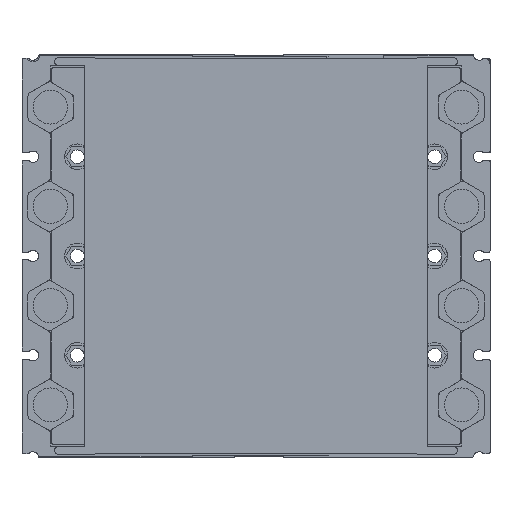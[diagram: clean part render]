
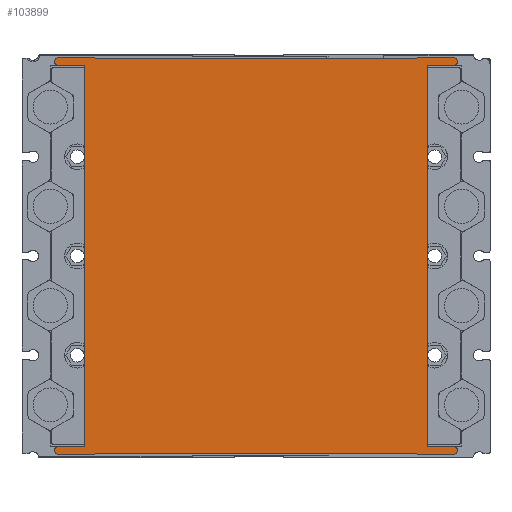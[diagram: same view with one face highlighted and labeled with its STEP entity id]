
A CAD part, front view. The second image highlights one B-rep face of the part: STEP entity #103899.
In plain terms, the highlighted planar face has unit normal (0, -1, 0).
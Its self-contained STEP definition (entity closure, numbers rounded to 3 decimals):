
#13864=DIRECTION('',(1.,0.,0.));
#13865=VECTOR('',#13864,112.764);
#13866=CARTESIAN_POINT('',(26.118,0.,-140.5));
#13867=LINE('',#13866,#13865);
#13884=DIRECTION('',(-1.,0.,0.));
#13885=VECTOR('',#13884,9.2);
#13886=CARTESIAN_POINT('',(22.2,0.,-138.));
#13887=LINE('',#13886,#13885);
#13900=DIRECTION('',(0.,0.,-1.));
#13901=VECTOR('',#13900,134.);
#13902=CARTESIAN_POINT('',(22.2,0.,-4.));
#13903=LINE('',#13902,#13901);
#38271=DIRECTION('',(0.,0.,1.));
#38272=VECTOR('',#38271,134.);
#38273=CARTESIAN_POINT('',(142.8,0.,-138.));
#38274=LINE('',#38273,#38272);
#38635=DIRECTION('',(1.,0.,0.));
#38636=VECTOR('',#38635,112.764);
#38637=CARTESIAN_POINT('',(26.118,0.,-1.5));
#38638=LINE('',#38637,#38636);
#38639=CARTESIAN_POINT('',(140.,0.,-2.5));
#38640=DIRECTION('',(0.,1.,0.));
#38641=DIRECTION('',(-0.745,0.,0.667));
#38642=AXIS2_PLACEMENT_3D('',#38639,#38640,#38641);
#38644=DIRECTION('',(1.,0.,0.));
#38645=VECTOR('',#38644,12.);
#38646=CARTESIAN_POINT('',(140.,0.,-1.));
#38647=LINE('',#38646,#38645);
#38648=CARTESIAN_POINT('',(152.,0.,-2.5));
#38649=DIRECTION('',(0.,1.,0.));
#38650=DIRECTION('',(0.,0.,1.));
#38651=AXIS2_PLACEMENT_3D('',#38648,#38649,#38650);
#38653=DIRECTION('',(-1.,0.,0.));
#38654=VECTOR('',#38653,9.2);
#38655=CARTESIAN_POINT('',(152.,0.,-4.));
#38656=LINE('',#38655,#38654);
#38657=CARTESIAN_POINT('',(152.,0.,-139.5));
#38658=DIRECTION('',(0.,1.,0.));
#38659=DIRECTION('',(0.,0.,1.));
#38660=AXIS2_PLACEMENT_3D('',#38657,#38658,#38659);
#38662=DIRECTION('',(-1.,0.,0.));
#38663=VECTOR('',#38662,12.);
#38664=CARTESIAN_POINT('',(152.,0.,-141.));
#38665=LINE('',#38664,#38663);
#38666=CARTESIAN_POINT('',(140.,0.,-139.5));
#38667=DIRECTION('',(0.,1.,0.));
#38668=DIRECTION('',(0.,0.,-1.));
#38669=AXIS2_PLACEMENT_3D('',#38666,#38667,#38668);
#38671=CARTESIAN_POINT('',(25.,0.,-139.5));
#38672=DIRECTION('',(0.,1.,0.));
#38673=DIRECTION('',(0.745,0.,-0.667));
#38674=AXIS2_PLACEMENT_3D('',#38671,#38672,#38673);
#38676=DIRECTION('',(-1.,0.,0.));
#38677=VECTOR('',#38676,12.);
#38678=CARTESIAN_POINT('',(25.,0.,-141.));
#38679=LINE('',#38678,#38677);
#38680=CARTESIAN_POINT('',(13.,0.,-139.5));
#38681=DIRECTION('',(0.,1.,0.));
#38682=DIRECTION('',(0.,0.,-1.));
#38683=AXIS2_PLACEMENT_3D('',#38680,#38681,#38682);
#38685=DIRECTION('',(-1.,0.,0.));
#38686=VECTOR('',#38685,9.2);
#38687=CARTESIAN_POINT('',(22.2,0.,-4.));
#38688=LINE('',#38687,#38686);
#38689=CARTESIAN_POINT('',(13.,0.,-2.5));
#38690=DIRECTION('',(0.,1.,0.));
#38691=DIRECTION('',(0.,0.,-1.));
#38692=AXIS2_PLACEMENT_3D('',#38689,#38690,#38691);
#38694=DIRECTION('',(1.,0.,0.));
#38695=VECTOR('',#38694,12.);
#38696=CARTESIAN_POINT('',(13.,0.,-1.));
#38697=LINE('',#38696,#38695);
#38698=CARTESIAN_POINT('',(25.,0.,-2.5));
#38699=DIRECTION('',(0.,1.,0.));
#38700=DIRECTION('',(0.,0.,1.));
#38701=AXIS2_PLACEMENT_3D('',#38698,#38699,#38700);
#38723=DIRECTION('',(-1.,0.,0.));
#38724=VECTOR('',#38723,9.2);
#38725=CARTESIAN_POINT('',(152.,0.,-138.));
#38726=LINE('',#38725,#38724);
#57768=CARTESIAN_POINT('',(138.882,0.,-1.5));
#57769=VERTEX_POINT('',#57768);
#57770=CARTESIAN_POINT('',(26.118,0.,-1.5));
#57771=VERTEX_POINT('',#57770);
#58121=CARTESIAN_POINT('',(26.118,0.,-140.5));
#58122=VERTEX_POINT('',#58121);
#58123=CARTESIAN_POINT('',(138.882,0.,-140.5));
#58124=VERTEX_POINT('',#58123);
#58125=CARTESIAN_POINT('',(25.,0.,-141.));
#58126=VERTEX_POINT('',#58125);
#58127=CARTESIAN_POINT('',(13.,0.,-141.));
#58128=VERTEX_POINT('',#58127);
#58129=CARTESIAN_POINT('',(13.,0.,-138.));
#58130=VERTEX_POINT('',#58129);
#58131=CARTESIAN_POINT('',(22.2,0.,-138.));
#58133=VERTEX_POINT('',#58131);
#58141=CARTESIAN_POINT('',(22.2,0.,-4.));
#58142=VERTEX_POINT('',#58141);
#61235=CARTESIAN_POINT('',(142.8,0.,-138.));
#61236=VERTEX_POINT('',#61235);
#61237=CARTESIAN_POINT('',(142.8,0.,-4.));
#61238=VERTEX_POINT('',#61237);
#61383=CARTESIAN_POINT('',(152.,0.,-4.));
#61384=VERTEX_POINT('',#61383);
#61385=CARTESIAN_POINT('',(140.,0.,-1.));
#61386=VERTEX_POINT('',#61385);
#61387=CARTESIAN_POINT('',(152.,0.,-1.));
#61388=VERTEX_POINT('',#61387);
#61389=CARTESIAN_POINT('',(152.,0.,-138.));
#61390=VERTEX_POINT('',#61389);
#61391=CARTESIAN_POINT('',(152.,0.,-141.));
#61392=VERTEX_POINT('',#61391);
#61393=CARTESIAN_POINT('',(140.,0.,-141.));
#61394=VERTEX_POINT('',#61393);
#61395=CARTESIAN_POINT('',(13.,0.,-4.));
#61396=VERTEX_POINT('',#61395);
#61397=CARTESIAN_POINT('',(13.,0.,-1.));
#61398=VERTEX_POINT('',#61397);
#61399=CARTESIAN_POINT('',(25.,0.,-1.));
#61400=VERTEX_POINT('',#61399);
#103861=CARTESIAN_POINT('',(82.5,0.,-71.));
#103862=DIRECTION('',(0.,1.,0.));
#103863=DIRECTION('',(0.,0.,-1.));
#103864=AXIS2_PLACEMENT_3D('',#103861,#103862,#103863);
#103865=PLANE('',#103864);
#103866=ORIENTED_EDGE('',*,*,#70781,.T.);
#103868=ORIENTED_EDGE('',*,*,#103867,.T.);
#103870=ORIENTED_EDGE('',*,*,#103869,.T.);
#103872=ORIENTED_EDGE('',*,*,#103871,.T.);
#103873=ORIENTED_EDGE('',*,*,#103850,.T.);
#103874=ORIENTED_EDGE('',*,*,#103555,.F.);
#103876=ORIENTED_EDGE('',*,*,#103875,.F.);
#103878=ORIENTED_EDGE('',*,*,#103877,.T.);
#103880=ORIENTED_EDGE('',*,*,#103879,.T.);
#103882=ORIENTED_EDGE('',*,*,#103881,.T.);
#103883=ORIENTED_EDGE('',*,*,#71162,.F.);
#103884=ORIENTED_EDGE('',*,*,#71178,.T.);
#103885=ORIENTED_EDGE('',*,*,#71191,.T.);
#103886=ORIENTED_EDGE('',*,*,#71205,.T.);
#103887=ORIENTED_EDGE('',*,*,#71218,.F.);
#103888=ORIENTED_EDGE('',*,*,#71238,.F.);
#103890=ORIENTED_EDGE('',*,*,#103889,.T.);
#103892=ORIENTED_EDGE('',*,*,#103891,.T.);
#103894=ORIENTED_EDGE('',*,*,#103893,.T.);
#103896=ORIENTED_EDGE('',*,*,#103895,.T.);
#103897=EDGE_LOOP('',(#103866,#103868,#103870,#103872,#103873,#103874,#103876,
#103878,#103880,#103882,#103883,#103884,#103885,#103886,#103887,#103888,#103890,
#103892,#103894,#103896));
#103898=FACE_OUTER_BOUND('',#103897,.F.);
#103899=ADVANCED_FACE('',(#103898),#103865,.F.);
#38643=CIRCLE('',#38642,1.5);
#38652=CIRCLE('',#38651,1.5);
#38661=CIRCLE('',#38660,1.5);
#38670=CIRCLE('',#38669,1.5);
#38675=CIRCLE('',#38674,1.5);
#38684=CIRCLE('',#38683,1.5);
#38693=CIRCLE('',#38692,1.5);
#38702=CIRCLE('',#38701,1.5);
#70781=EDGE_CURVE('',#57771,#57769,#38638,.T.);
#71162=EDGE_CURVE('',#58122,#58124,#13867,.T.);
#71178=EDGE_CURVE('',#58122,#58126,#38675,.T.);
#71191=EDGE_CURVE('',#58126,#58128,#38679,.T.);
#71205=EDGE_CURVE('',#58128,#58130,#38684,.T.);
#71218=EDGE_CURVE('',#58133,#58130,#13887,.T.);
#71238=EDGE_CURVE('',#58142,#58133,#13903,.T.);
#103555=EDGE_CURVE('',#61236,#61238,#38274,.T.);
#103850=EDGE_CURVE('',#61384,#61238,#38656,.T.);
#103867=EDGE_CURVE('',#57769,#61386,#38643,.T.);
#103869=EDGE_CURVE('',#61386,#61388,#38647,.T.);
#103871=EDGE_CURVE('',#61388,#61384,#38652,.T.);
#103875=EDGE_CURVE('',#61390,#61236,#38726,.T.);
#103877=EDGE_CURVE('',#61390,#61392,#38661,.T.);
#103879=EDGE_CURVE('',#61392,#61394,#38665,.T.);
#103881=EDGE_CURVE('',#61394,#58124,#38670,.T.);
#103889=EDGE_CURVE('',#58142,#61396,#38688,.T.);
#103891=EDGE_CURVE('',#61396,#61398,#38693,.T.);
#103893=EDGE_CURVE('',#61398,#61400,#38697,.T.);
#103895=EDGE_CURVE('',#61400,#57771,#38702,.T.);
